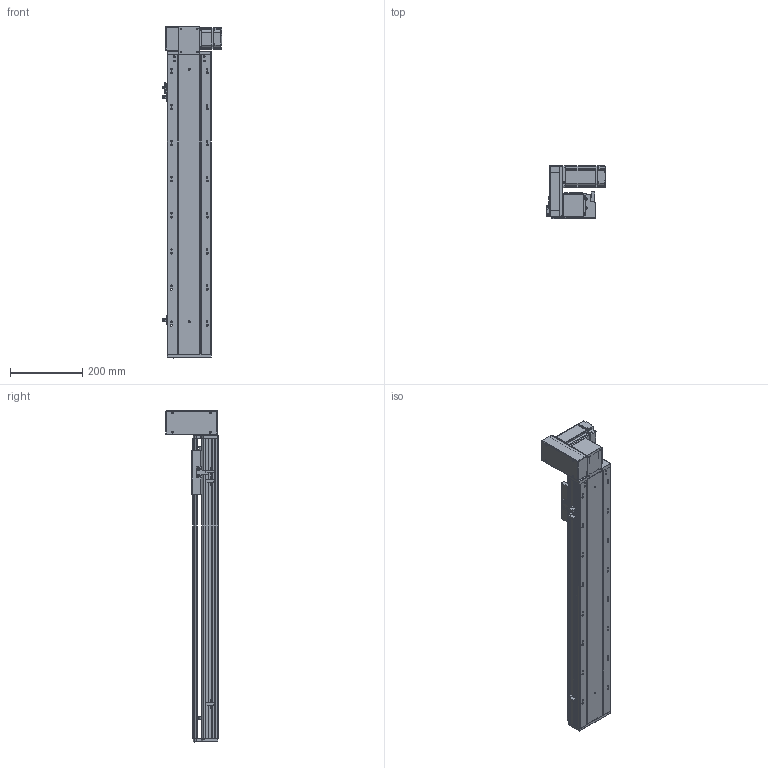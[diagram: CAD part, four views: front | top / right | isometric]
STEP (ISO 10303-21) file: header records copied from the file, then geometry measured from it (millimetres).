
FILE_DESCRIPTION (( 'STEP AP203' ), '1' );
FILE_NAME ('RY120-T-300-UL.SLDASM_600.step', '2021-03-01T05:35:32', ( '盈信电脑' ), ( '东莞市道滘镇水果街19号' ), 'SwSTEP 2.0', 'SolidWorks 2012', '' );
FILE_SCHEMA (( 'CONFIG_CONTROL_DESIGN' ));
Length unit declared in the file: millimetre
Products named in the file (18): RY120-T-300-UL.SLDASM_600; RY120-T蹟翐M4; RY120-T翋肮祭謫裔啣; RY120-T萇儂欶; 滅袉蝶18-10; 侂狟400W侜督萇儂; 15; RY120-T主同步轮轴承压盖; RY120-T肮祭湍揤踡輸1; RY120-T萇儂假蚾啣; RY120-T肮祭湍揤踡輸2; RY120-T翋肮祭盓傅釱; RY120外置感应片(140共用）; RY120肮祭湍臏賑輸; RY120綴裔啣; 覜茼ん672; RY120-T-300-UL倰第菁釱_600; RY120-T-300-UL倰第奻裔啣_600
Assembly tree (23 placements, depth 3):
  RY120-T-300-UL.SLDASM_600
    RY120-T-300-UL倰第菁釱_600
    RY120-T-300-UL倰第奻裔啣_600
    RY120肮祭湍臏賑輸
    RY120綴裔啣
    覜茼ん672  x3
    RY120外置感应片(140共用）
    RY120-T肮祭湍揤踡輸1
    RY120-T肮祭湍揤踡輸2
    RY120-T翋肮祭盓傅釱
    RY120-T萇儂假蚾啣
    侂狟400W侜督萇儂
      15
    RY120-T主同步轮轴承压盖
    滅袉蝶18-10  x2
    RY120-T萇儂欶
    RY120-T蹟翐M4  x4
    RY120-T翋肮祭謫裔啣
Bounding box: 164.2 x 146 x 921 mm (x, y, z)
Volume: 2737352.8 mm3; surface area: 1004559.7 mm2
Topology: 23 solids, 23 shells, 2806 faces, 7672 edges, 4938 vertices
Faces by surface type: plane 1422, cylinder 1068, cone 227, bspline 89
Entity records: 90020 total; most frequent: CARTESIAN_POINT 23182, ORIENTED_EDGE 13816, DIRECTION 12978, EDGE_CURVE 6908, VERTEX_POINT 4525, AXIS2_PLACEMENT_3D 4337, VECTOR 4304, LINE 4304
